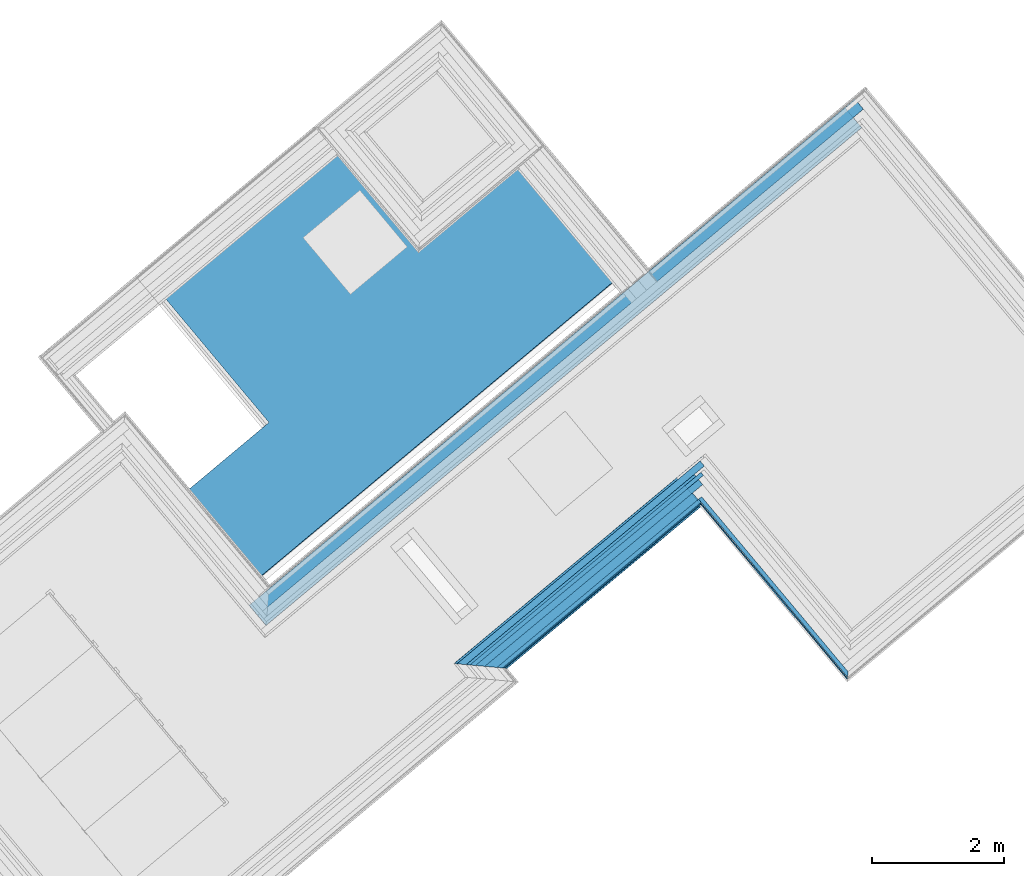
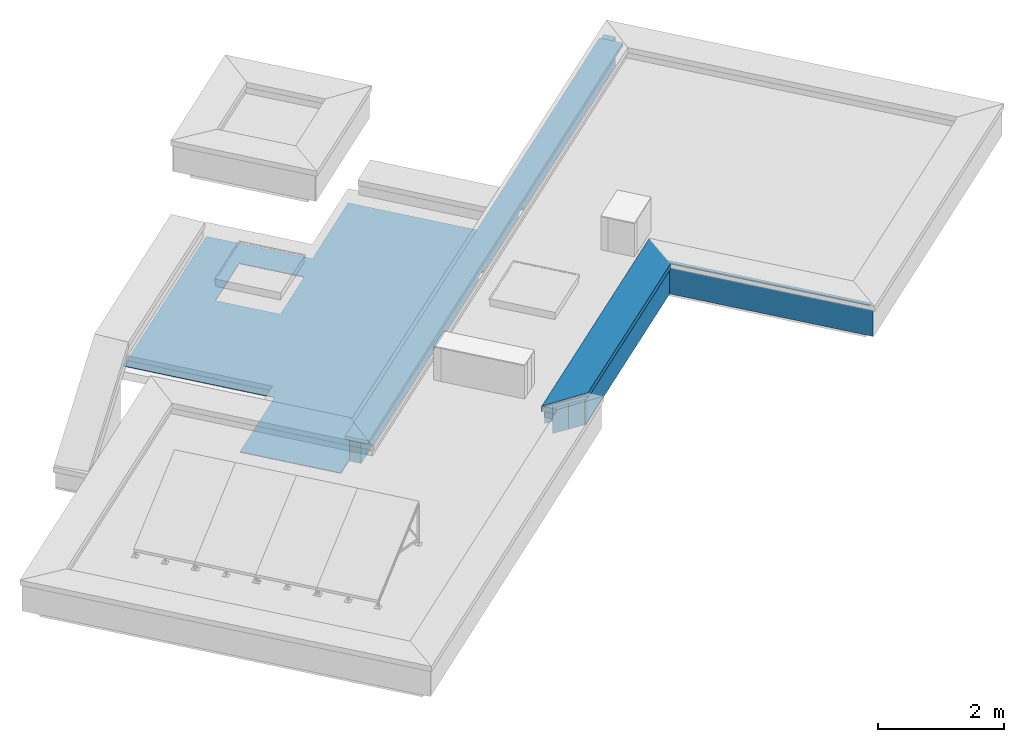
# One storey, part 6 of 15: 14 building element parts, 1 opening, 4 elements without a shape of their own.
"""IFC4 building model written with IfcOpenShell, lengths in metres."""

from ifc_helpers import new_model, entity, si_unit, converted_unit, derived_unit, direction, frame, origin_with_axes, place, context, subcontext, project, spatial, polygons, material, type_object, element, aggregate, save


model = new_model("IFC4")

# Units and contexts
model_context = context("Model", 3, precision=1e-05, world=origin_with_axes(), true_north=direction((0.0, 1.0)))
body_context = subcontext(model_context, "Body", "Model", "MODEL_VIEW")
ifc_project = project(units=[si_unit("LENGTHUNIT", "METRE"), si_unit("AREAUNIT", "SQUARE_METRE"), si_unit("VOLUMEUNIT", "CUBIC_METRE"), converted_unit("PLANEANGLEUNIT", "DEGREE", entity("IfcPlaneAngleMeasure", 0.0174532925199), si_unit("PLANEANGLEUNIT", "RADIAN"), dimensions=[0, 0, 0, 0, 0, 0, 0]), converted_unit("TIMEUNIT", "Year", entity("IfcTimeMeasure", 31556926.0), si_unit("TIMEUNIT", "SECOND"), dimensions=[0, 0, 1, 0, 0, 0, 0]), si_unit("MASSUNIT", "GRAM", prefix="KILO"), si_unit("THERMODYNAMICTEMPERATUREUNIT", "DEGREE_CELSIUS"), si_unit("LUMINOUSINTENSITYUNIT", "LUMEN"), si_unit("ENERGYUNIT", "JOULE", prefix="MEGA"), derived_unit("THERMALCONDUCTANCEUNIT", [(si_unit("POWERUNIT", "WATT"), 1), (si_unit("LENGTHUNIT", "METRE"), -1), (si_unit("THERMODYNAMICTEMPERATUREUNIT", "KELVIN"), -1)]), derived_unit("SPECIFICHEATCAPACITYUNIT", [(si_unit("ENERGYUNIT", "JOULE"), 1), (si_unit("MASSUNIT", "GRAM", prefix="KILO"), -1), (si_unit("THERMODYNAMICTEMPERATUREUNIT", "KELVIN"), -1)]), derived_unit("MASSDENSITYUNIT", [(si_unit("MASSUNIT", "GRAM", prefix="KILO"), 1), (si_unit("VOLUMEUNIT", "CUBIC_METRE"), -1)])], contexts=[model_context])

# Site, building, storey
site_placement = place(None, frame((-0.00153261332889, -0.00661245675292, 0.0), z_axis=(0.0, 0.0, 1.0), x_axis=(1.0, 0.0, 0.0)))
site = spatial("IfcSite", under=ifc_project, at=site_placement, Name="Site", CompositionType="ELEMENT")
building_placement = place(site_placement, origin_with_axes())
building = spatial("IfcBuilding", under=site, at=building_placement, Name="Building", CompositionType="ELEMENT")
storey_placement = place(building_placement, frame((0.0, 0.0, 11.84), z_axis=(0.0, 0.0, 1.0), x_axis=(1.0, 0.0, 0.0)))
storey = spatial("IfcBuildingStorey", under=building, at=storey_placement, Name="DA", CompositionType="ELEMENT", Elevation=11.84)

# Wall, building element parts
wall_type_1 = type_object("IfcWallType", Name="Bauteil - Attika Stehfalz 574 x 670", PredefinedType="NOTDEFINED")
wall_1_placement = place(storey_placement, frame((-0.976428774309, 18.8021580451, 0.0), z_axis=(0.0, 0.0, 1.0), x_axis=(0.767365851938, 0.641209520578, 0.0)))
wall_1 = element("IfcWall", 1, at=wall_1_placement, inside=storey, type_object=wall_type_1, Name="Wand-004", PredefinedType="NOTDEFINED")
ifc_material_1 = material(Name="EPS 1")
building_element_part_1_placement = place(wall_1_placement, origin_with_axes())
building_element_part_1 = element("IfcBuildingElementPart", 2, at=building_element_part_1_placement, material=ifc_material_1, Name="EPS 1", PredefinedType="NOTDEFINED", context=body_context, shape_type="Tessellation", body=[
    polygons([(11.7621019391, 0.19999996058, 0.5), (0.0, 0.19999996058, 0.5), (0.0, -1.2725180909e-09, 0.5), (11.7621019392, -1.27252164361e-09, 0.5), (0.0, 0.19999996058, 0.491006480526), (0.0, 0.19999996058, 0.498822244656), (11.7621019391, 0.19999996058, 0.498822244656), (11.7621019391, 0.19999996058, 0.491006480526), (11.7621019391, 0.19999996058, 0.488695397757), (11.7621019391, 0.19999996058, 0.235000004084), (11.7621019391, 0.19999996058, 0.0), (11.7621019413, 0.19999996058, -0.06), (7.48079768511, 0.19999996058, -0.06), (7.48079768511, 0.19999996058, -0.00130460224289), (7.48079768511, 0.19999996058, 0.00100648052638), (7.48079768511, 0.19999996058, 0.00882224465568), (7.48079768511, 0.19999996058, 0.01), (7.2807976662, 0.19999996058, 0.01), (7.28079766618, 0.19999996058, 0.00882224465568), (7.28079766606, 0.19999996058, 0.00100648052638), (7.28079766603, 0.19999996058, -0.00130460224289), (7.28079766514, 0.19999996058, -0.06), (5.63007431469, 0.19999996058, -0.06), (5.63007431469, 0.19999996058, 0.0), (5.43007429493, 0.19999996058, 0.0), (5.43007429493, 0.19999996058, -0.06), (0.0, 0.19999996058, -0.06), (0.0, 0.19999996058, 0.0), (0.0, 0.19999996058, 0.235000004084), (0.0, 0.19999996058, 0.488695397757), (0.0, -1.2725180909e-09, 0.498822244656), (0.0, -1.2725180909e-09, 0.491006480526), (0.0, -1.2725180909e-09, 0.488695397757), (0.0, -1.2725180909e-09, 0.235000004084), (0.0, -1.27251986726e-09, 0.0), (0.0, -1.27251986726e-09, -0.06), (5.42998538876, -1.2725180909e-09, -0.06), (5.42998538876, -1.2725180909e-09, 0.0), (5.62998540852, -1.2725180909e-09, 0.0), (5.62998540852, -1.2725180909e-09, -0.06), (7.28071069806, -1.27251986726e-09, -0.06), (7.28071069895, -1.27251986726e-09, -0.00130460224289), (7.28071069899, -1.27251986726e-09, 0.00100648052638), (7.2807106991, -1.2725180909e-09, 0.00882224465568), (7.28071069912, -1.2725180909e-09, 0.01), (7.48071071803, -1.2725180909e-09, 0.01), (7.48071071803, -1.2725180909e-09, 0.00882224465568), (7.48071071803, -1.2725180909e-09, 0.00100648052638), (7.48071071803, -1.2725180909e-09, -0.00130460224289), (7.48071071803, -1.27251986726e-09, -0.06), (11.7621019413, -1.2725180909e-09, -0.06), (11.7621019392, -1.27251986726e-09, 0.0), (11.7621019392, -1.27251986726e-09, 0.235000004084), (11.7621019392, -1.27251986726e-09, 0.488695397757), (11.7621019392, -1.27251986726e-09, 0.491006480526), (11.7621019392, -1.27251986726e-09, 0.498822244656)], [[[1, 2, 3, 4]], [[5, 6, 2, 1, 7, 8, 9, 10, 11, 12, 13, 14, 15, 16, 17, 18, 19, 20, 21, 22, 23, 24, 25, 26, 27, 28, 29, 30]], [[6, 31, 3, 2]], [[4, 3, 31, 32, 33, 34, 35, 36, 37, 38, 39, 40, 41, 42, 43, 44, 45, 46, 47, 48, 49, 50, 51, 52, 53, 54, 55, 56]], [[7, 1, 4, 56]], [[32, 31, 6, 5]], [[8, 7, 56, 55]], [[9, 8, 55, 54]], [[10, 9, 54, 53]], [[11, 10, 53, 52]], [[12, 11, 52, 51]], [[51, 50, 13, 12]], [[50, 49, 14, 13]], [[49, 48, 15, 14]], [[48, 47, 16, 15]], [[16, 47, 46, 17]], [[17, 46, 45, 18]], [[18, 45, 44, 19]], [[20, 19, 44, 43]], [[21, 20, 43, 42]], [[22, 21, 42, 41]], [[23, 22, 41, 40]], [[23, 40, 39, 24]], [[24, 39, 38, 25]], [[25, 38, 37, 26]], [[27, 26, 37, 36]], [[36, 35, 28, 27]], [[35, 34, 29, 28]], [[34, 33, 30, 29]], [[33, 32, 5, 30]]], closed=True),
])
ifc_material_2 = material(Name="Brettschichtholz")
building_element_part_2_placement = place(wall_1_placement, origin_with_axes())
building_element_part_2 = element("IfcBuildingElementPart", 3, at=building_element_part_2_placement, material=ifc_material_2, Name="Brettschichtholz", PredefinedType="NOTDEFINED", context=body_context, shape_type="Tessellation", body=[
    polygons([(-0.200000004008, -0.159999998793, 0.560000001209), (-0.200000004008, -0.200000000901, 0.560000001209), (11.5621019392, -0.200000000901, 0.560000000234), (11.5621019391, -0.159999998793, 0.560000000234), (-0.200000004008, -0.200000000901, 0.519224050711), (-0.200000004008, -0.09999999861, 0.560000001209), (-0.200000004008, 0.13012497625, 0.560000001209), (-0.200000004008, 0.190124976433, 0.560000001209), (-0.200000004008, 0.19999996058, 0.560000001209), (-0.200000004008, 0.19999996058, 0.519224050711), (-0.200000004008, -0.200000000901, 0.51136132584), (-0.200000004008, -0.200000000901, 0.509050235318), (-0.200000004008, -0.200000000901, 0.499999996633), (11.5621019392, -0.200000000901, 0.499999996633), (11.5621019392, -0.200000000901, 0.509050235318), (11.5621019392, -0.200000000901, 0.51136132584), (11.5621019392, -0.200000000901, 0.519224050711), (11.5621019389, 0.19999996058, 0.519224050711), (11.5621019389, 0.19999996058, 0.560000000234), (11.5621019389, 0.190124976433, 0.560000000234), (11.562101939, 0.13012497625, 0.560000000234), (11.5621019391, -0.09999999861, 0.560000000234), (11.5621019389, 0.19999996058, 0.51136132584), (11.5621019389, 0.19999996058, 0.509050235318), (11.5621019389, 0.19999996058, 0.499999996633), (-0.200000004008, 0.19999996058, 0.499999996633), (-0.200000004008, 0.19999996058, 0.509050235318), (-0.200000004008, 0.19999996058, 0.51136132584)], [[[1, 2, 3, 4]], [[5, 2, 1, 6, 7, 8, 9, 10]], [[2, 5, 11, 12, 13, 14, 15, 16, 17, 3]], [[4, 3, 17, 18, 19, 20, 21, 22]], [[6, 1, 4, 22]], [[7, 6, 22, 21]], [[8, 7, 21, 20]], [[9, 8, 20, 19]], [[10, 9, 19, 18, 23, 24, 25, 26, 27, 28]], [[5, 10, 28, 11]], [[11, 28, 27, 12]], [[12, 27, 26, 13]], [[13, 26, 25, 14]], [[24, 15, 14, 25]], [[23, 16, 15, 24]], [[18, 17, 16, 23]]], closed=True),
])
aggregate(wall_1, [building_element_part_1, building_element_part_2])

# Roof, opening, building element part
roof_type = type_object("IfcRoofType", Name="Flachdach Kies Dachaufbau Treppenbereich 290", PredefinedType="NOTDEFINED")
roof_placement = place(storey_placement, frame((0.355631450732, 20.6791553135, -0.49), z_axis=(0.0, 0.0, 1.0), x_axis=(0.767529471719, 0.641013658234, 0.0)))
roof = element("IfcRoof", 4, at=roof_placement, inside=storey, type_object=roof_type, Name="Dach-002", PredefinedType="NOTDEFINED")
opening_placement = place(roof_placement, frame((1.78288822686, 2.80364761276, -0.2), z_axis=(0.0, 0.0, 1.0), x_axis=(1.0, 0.0, 0.0)))
element("IfcOpeningElement", 5, at=opening_placement, cuts=roof, Name="DFenst-002", context=body_context, identifier="Reference", shape_type="Tessellation", body=[
    polygons([(0.000113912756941, -0.549086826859, 0.49), (1.09996655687, -0.548858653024, 0.49), (1.09996655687, -0.548858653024, 0.491), (0.000113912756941, -0.549086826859, 0.491), (0.000113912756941, -0.549086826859, 0.199), (1.09996655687, -0.548858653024, 0.199), (1.09973873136, 0.549315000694, 0.49), (1.09973873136, 0.549315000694, 0.491), (-0.000113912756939, 0.549086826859, 0.491), (-0.000113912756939, 0.549086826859, 0.49), (-0.000113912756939, 0.549086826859, 0.199), (1.09973873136, 0.549315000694, 0.199)], [[[1, 2, 3, 4]], [[2, 1, 5, 6]], [[2, 7, 8, 3]], [[8, 9, 4, 3]], [[10, 1, 4, 9]], [[1, 10, 11, 5]], [[6, 5, 11, 12]], [[7, 2, 6, 12]], [[7, 10, 9, 8]], [[10, 7, 12, 11]]], closed=True),
])
ifc_material_3 = material(Name="Folie")
building_element_part_3_placement = place(roof_placement, origin_with_axes())
building_element_part_3 = element("IfcBuildingElementPart", 6, at=building_element_part_3_placement, material=ifc_material_3, Name="Folie", PredefinedType="NOTDEFINED", context=body_context, shape_type="Tessellation", body=[
    polygons([(5.05664972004, -0.162437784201, 0.015), (5.05665223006, -0.168665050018, -3.39504832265e-05), (5.05565338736, 2.30641503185, 0.0), (5.05565338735, 2.30641503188, 0.015), (-2.02563488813, -0.163842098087, 0.015), (-2.02563312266, -0.170055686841, -9.30777352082e-07), (5.03909187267, -0.168668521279, -3.39246458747e-05), (5.04308602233, -0.168667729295, -3.3924641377e-05), (-0.414990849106, 1.54558278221, 0.0), (1.78300213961, 2.2545607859, 0.0), (2.88285478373, 2.25478895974, 0.0), (3.40505867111, 2.30677699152, 0.0), (3.40505867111, 2.30677699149, 0.015), (3.40545349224, 4.10711215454, 0.015), (-0.420373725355, 4.10577441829, 0.015), (-0.419720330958, 1.54558211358, 0.015), (-2.0261205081, 1.54535500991, 0.015), (1.7827743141, 3.35273443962, 0.015), (2.88262695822, 3.35296261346, 0.015), (2.88285478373, 2.25478895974, 0.015), (1.78300213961, 2.2545607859, 0.015), (-2.0261205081, 1.54535500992, 0.0), (-0.415644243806, 4.105776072, 0.0), (3.40545349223, 4.10711215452, 0.0), (2.88262695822, 3.35296261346, 0.0), (1.7827743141, 3.35273443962, 0.0)], [[[1, 2, 3, 4]], [[2, 1, 5, 6, 7, 8]], [[2, 8, 9, 10, 11, 3]], [[3, 12, 13, 4]], [[5, 1, 4, 13, 14, 15, 16, 17], [18, 19, 20, 21]], [[6, 5, 17, 22]], [[7, 6, 22]], [[8, 7, 22, 9]], [[23, 24, 12, 3, 11, 25, 26, 10, 9]], [[21, 20, 11, 10]], [[12, 24, 14, 13]], [[24, 23, 15, 14]], [[23, 9, 16, 15]], [[9, 22, 17, 16]], [[19, 18, 26, 25]], [[20, 19, 25, 11]], [[18, 21, 10, 26]]], closed=True),
])
aggregate(roof, [building_element_part_3])

# Wall, building element parts
wall_type_2 = type_object("IfcWallType", Name="Individuelles Profil 574 x 610", PredefinedType="NOTDEFINED")
wall_2_placement = place(storey_placement, frame((5.6143951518, 20.6557540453, 0.0), z_axis=(0.0, 0.0, 1.0), x_axis=(0.641709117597, -0.766948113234, 0.0)))
wall_2 = element("IfcWall", 7, at=wall_2_placement, inside=storey, type_object=wall_type_2, Name="Wand-004", PredefinedType="NOTDEFINED")
ifc_material_4 = material(Name="Vollholz")
building_element_part_4_placement = place(wall_2_placement, origin_with_axes())
building_element_part_4 = element("IfcBuildingElementPart", 8, at=building_element_part_4_placement, material=ifc_material_4, Name="Vollholz", PredefinedType="NOTDEFINED", context=body_context, shape_type="Tessellation", body=[
    polygons([(0.129855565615, -0.190124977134, 0.560000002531), (0.129940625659, -0.130124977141, 0.560000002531), (3.58755698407, -0.130124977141, 0.560000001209), (3.58755698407, -0.190124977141, 0.560000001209), (0.129855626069, -0.190082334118, 0.567947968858), (0.129940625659, -0.130124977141, 0.567947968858), (0.129940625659, -0.130124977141, 0.573880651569), (0.129940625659, -0.130124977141, 0.575979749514), (0.129940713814, -0.130124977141, 0.584015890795), (3.58755698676, -0.130124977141, 0.584015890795), (3.58755698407, -0.130124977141, 0.575979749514), (3.58755698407, -0.130124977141, 0.573880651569), (3.58755698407, -0.130124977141, 0.567947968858), (3.58755698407, -0.190082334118, 0.567947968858), (3.58755698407, -0.190050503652, 0.573880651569), (3.58755698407, -0.190039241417, 0.575979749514), (3.58755698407, -0.189996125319, 0.584015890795), (3.64741691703, -0.189984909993, 0.586106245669), (0.189715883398, -0.189984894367, 0.586106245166), (0.129855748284, -0.189996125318, 0.584015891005), (0.12985568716, -0.190039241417, 0.575979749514), (0.129855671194, -0.190050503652, 0.573880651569)], [[[1, 2, 3, 4]], [[1, 5, 6, 2]], [[2, 6, 7, 8, 9, 10, 11, 12, 13, 3]], [[14, 4, 3, 13]], [[5, 1, 4, 14, 15, 16, 17, 18, 19, 20, 21, 22]], [[5, 22, 7, 6]], [[22, 21, 8, 7]], [[21, 20, 9, 8]], [[19, 18, 10, 9]], [[17, 16, 11, 10]], [[16, 15, 12, 11]], [[15, 14, 13, 12]], [[18, 17, 10]], [[20, 19, 9]]], closed=True),
])
ifc_material_5 = material(Name="Zementputz")
building_element_part_5_placement = place(wall_2_placement, origin_with_axes())
building_element_part_5 = element("IfcBuildingElementPart", 9, at=building_element_part_5_placement, material=ifc_material_5, Name="Zementputz", PredefinedType="NOTDEFINED", context=body_context, shape_type="Tessellation", body=[
    polygons([(0.199716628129, -0.199999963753, 0.498822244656), (0.199716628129, -0.199999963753, 0.5), (3.65743197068, -0.199999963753, 0.5), (3.65743197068, -0.199999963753, 0.498822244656), (3.65743197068, -0.199999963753, 0.491006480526), (3.65743197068, -0.199999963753, 0.488695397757), (3.65743197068, -0.199999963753, 0.235000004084), (3.65743197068, -0.199999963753, 0.0), (0.199716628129, -0.199999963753, 0.0), (0.199716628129, -0.199999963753, 0.235000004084), (0.199716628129, -0.199999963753, 0.488695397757), (0.199716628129, -0.199999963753, 0.491006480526), (0.199695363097, -0.214999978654, 0.5), (0.199695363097, -0.214999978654, 0.498822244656), (3.65743197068, -0.214999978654, 0.5), (3.65743197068, -0.214999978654, 0.498822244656), (3.65743197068, -0.214999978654, 0.491006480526), (3.65743197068, -0.214999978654, 0.488695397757), (3.65743197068, -0.214999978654, 0.235000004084), (3.65743197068, -0.214999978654, 0.0), (0.199695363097, -0.214999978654, 0.0), (0.199695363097, -0.214999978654, 0.235000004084), (0.199695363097, -0.214999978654, 0.488695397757), (0.199695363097, -0.214999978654, 0.491006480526)], [[[1, 2, 3, 4, 5, 6, 7, 8, 9, 10, 11, 12]], [[13, 2, 1, 14]], [[2, 13, 15, 3]], [[16, 4, 3, 15]], [[5, 4, 16, 17]], [[6, 5, 17, 18]], [[18, 19, 7, 6]], [[19, 20, 8, 7]], [[21, 9, 8, 20]], [[22, 10, 9, 21]], [[10, 22, 23, 11]], [[11, 23, 24, 12]], [[14, 1, 12, 24]], [[13, 14, 24, 23, 22, 21, 20, 19, 18, 17, 16, 15]]], closed=True),
])
aggregate(wall_2, [building_element_part_4, building_element_part_5])

wall_3_placement = place(storey_placement, frame((2.3134110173, 17.9017514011, 0.0), z_axis=(0.0, 0.0, 1.0), x_axis=(0.76785707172, 0.640621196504, 0.0)))
wall_3 = element("IfcWall", 10, at=wall_3_placement, inside=storey, type_object=wall_type_2, Name="Wand-004", PredefinedType="NOTDEFINED")
ifc_material_6 = material(Name="Stahl")
building_element_part_6_placement = place(wall_3_placement, origin_with_axes())
building_element_part_6 = element("IfcBuildingElementPart", 11, at=building_element_part_6_placement, material=ifc_material_6, Name="Stahl", PredefinedType="NOTDEFINED", context=body_context, shape_type="Tessellation", body=[
    polygons([(0.241500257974, -0.241500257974, 0.510007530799), (4.05779835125, -0.241500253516, 0.510007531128), (4.05779835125, -0.241500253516, 0.511361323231), (4.05779835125, -0.241500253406, 0.519224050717), (4.05779835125, -0.241500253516, 0.559999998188), (4.05779835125, -0.241500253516, 0.567947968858), (4.05779835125, -0.241500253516, 0.573880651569), (4.05779835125, -0.241500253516, 0.575979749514), (4.05779835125, -0.241500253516, 0.584015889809), (4.05779835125, -0.241500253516, 0.586106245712), (4.05779835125, -0.241500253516, 0.587937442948), (4.05779835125, -0.241500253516, 0.608570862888), (4.05779835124, -0.241500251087, 0.608602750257), (4.05779834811, -0.241500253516, 0.610006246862), (0.241500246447, -0.241500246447, 0.610006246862), (0.240542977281, -0.240542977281, 0.509050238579), (4.05875428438, -0.240542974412, 0.509050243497), (4.05779563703, -0.239585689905, 0.510007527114), (4.05779371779, -0.238231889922, 0.511361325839), (4.057796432, -0.240146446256, 0.511361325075), (4.05779643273, -0.240146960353, 0.519224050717), (4.0577964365, -0.240149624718, 0.559999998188), (4.05779643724, -0.240150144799, 0.567947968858), (4.05779643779, -0.240150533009, 0.573880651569), (4.05779643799, -0.240150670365, 0.575979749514), (4.05779643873, -0.240151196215, 0.584015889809), (4.05779643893, -0.240151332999, 0.586106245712), (4.0577964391, -0.240151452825, 0.587937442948), (4.05779644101, -0.240152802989, 0.608570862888), (4.05779644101, -0.240152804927, 0.608602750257), (4.05774338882, -0.202730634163, 0.608602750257), (-0.332051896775, 0.332051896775, 0.589243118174), (4.05909083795, -0.202730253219, 0.608602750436), (4.05996589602, -0.201849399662, 0.608570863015), (4.59311659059, 0.332051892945, 0.589243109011), (-0.332051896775, 0.332051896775, 0.489652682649), (-0.331094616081, 0.331094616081, 0.488695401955), (-0.321878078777, 0.321878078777, 0.497911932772), (-0.32288233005, 0.32288233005, 0.498822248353), (-0.330698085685, 0.330698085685, 0.491006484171), (-0.330698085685, 0.330698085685, 0.587937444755), (0.239276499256, -0.239276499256, 0.608570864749), (0.240152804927, -0.240152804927, 0.608602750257), (0.240146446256, -0.240146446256, 0.51136132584), (0.232283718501, -0.232283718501, 0.519224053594), (0.231373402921, -0.231373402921, 0.518219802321), (4.06599629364, -0.23137340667, 0.518219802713), (4.05914752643, -0.238231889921, 0.51136132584), (4.05915024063, -0.24014644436, 0.511361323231), (4.05914389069, -0.240152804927, 0.608602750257), (4.0600189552, -0.239276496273, 0.608570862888), (4.62918607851, 0.330698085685, 0.587937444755), (4.62918415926, 0.332051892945, 0.587937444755), (4.62918415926, 0.332051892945, 0.586106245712), (4.62918415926, 0.332051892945, 0.584015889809), (4.62918415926, 0.332051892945, 0.575979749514), (4.62918415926, 0.332051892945, 0.573880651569), (4.62918415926, 0.332051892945, 0.567947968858), (4.62918415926, 0.332051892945, 0.560000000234), (4.62918415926, 0.332051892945, 0.519224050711), (4.62918415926, 0.332051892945, 0.51136132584), (4.62918415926, 0.332051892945, 0.509050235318), (4.62918415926, 0.332051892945, 0.499999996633), (4.62918415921, 0.332051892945, 0.498822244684), (4.62918415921, 0.332051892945, 0.491006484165), (4.62726960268, 0.332051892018, 0.491006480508), (4.62862340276, 0.332051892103, 0.489652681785), (4.62958204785, 0.331094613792, 0.488695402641), (4.62727423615, 0.328783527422, 0.491006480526), (4.62037856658, 0.32187807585, 0.497911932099), (4.62138139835, 0.322882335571, 0.498822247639), (4.62037585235, 0.323792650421, 0.497911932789), (4.62727152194, 0.33069808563, 0.491006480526), (4.62918607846, 0.330698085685, 0.491006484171), (4.62918607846, 0.330698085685, 0.498822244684), (4.62918607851, 0.330698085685, 0.499999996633), (4.62918607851, 0.330698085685, 0.509050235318), (4.62918607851, 0.330698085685, 0.51136132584), (4.62918607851, 0.330698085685, 0.519224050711), (4.62918607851, 0.330698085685, 0.560000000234), (4.62918607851, 0.330698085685, 0.567947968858), (4.62918607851, 0.330698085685, 0.573880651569), (4.62918607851, 0.330698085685, 0.575979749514), (4.62918607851, 0.330698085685, 0.584015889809), (4.62918607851, 0.330698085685, 0.586106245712), (4.06700183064, -0.23228372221, 0.519224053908)], [[[1, 2, 3, 4, 5, 6, 7, 8, 9, 10, 11, 12, 13, 14, 15]], [[1, 16, 17, 2]], [[18, 19, 20, 3, 2]], [[20, 21, 4, 3]], [[21, 22, 5, 4]], [[5, 22, 23, 6]], [[7, 6, 23, 24]], [[8, 7, 24, 25]], [[9, 8, 25, 26]], [[10, 9, 26, 27]], [[11, 10, 27, 28]], [[12, 11, 28, 29]], [[30, 13, 12, 29]], [[30, 31, 14, 13]], [[32, 15, 14, 31, 33, 34, 35]], [[16, 1, 15, 32, 36, 37, 38, 39, 40, 41, 42, 43, 44, 45, 46]], [[16, 46, 47, 48, 19, 18, 17]], [[18, 2, 17]], [[20, 19, 48, 49]], [[44, 43, 30, 29, 28, 27, 26, 25, 24, 23, 22, 21, 20]], [[33, 31, 30, 50]], [[34, 33, 50, 51]], [[34, 51, 52, 53, 35]], [[36, 32, 35, 53, 54, 55, 56, 57, 58, 59, 60, 61, 62, 63, 64, 65, 66, 67]], [[37, 36, 67, 68]], [[38, 37, 68, 69, 70]], [[39, 38, 70, 71]], [[40, 39, 71, 72, 73]], [[41, 40, 73, 74, 75, 76, 77, 78, 79, 80, 81, 82, 83, 84, 85, 52]], [[42, 41, 52, 51]], [[43, 42, 51, 50, 30]], [[45, 44, 20, 49, 86]], [[46, 45, 86, 47]], [[48, 47, 86, 49]], [[52, 85, 54, 53]], [[84, 55, 54, 85]], [[83, 56, 55, 84]], [[57, 56, 83, 82]], [[58, 57, 82, 81]], [[59, 58, 81, 80]], [[60, 59, 80, 79]], [[61, 60, 79, 78]], [[62, 61, 78, 77]], [[63, 62, 77, 76]], [[64, 63, 76, 75]], [[65, 64, 75, 74]], [[73, 66, 65, 74]], [[66, 73, 69, 68, 67]], [[72, 70, 69, 73]], [[70, 72, 71]]], closed=True),
])
ifc_material_7 = material(Name="Holzwerkstoff")
building_element_part_7_placement = place(wall_3_placement, origin_with_axes())
building_element_part_7 = element("IfcBuildingElementPart", 12, at=building_element_part_7_placement, material=ifc_material_7, Name="Holzwerkstoff", PredefinedType="NOTDEFINED", context=body_context, shape_type="Tessellation", body=[
    polygons([(-0.329999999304, 0.329999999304, 0.567947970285), (-0.330698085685, 0.330698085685, 0.587937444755), (4.05849038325, 0.330698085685, 0.587937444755), (4.05848743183, 0.330695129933, 0.587852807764), (4.10850253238, 0.330634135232, 0.586106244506), (4.16836274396, 0.330561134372, 0.584015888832), (4.3984883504, 0.330280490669, 0.575979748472), (4.45859874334, 0.330207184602, 0.573880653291), (4.62848894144, 0.329999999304, 0.567947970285), (0.189984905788, -0.189984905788, 0.586106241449), (0.239999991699, -0.239999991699, 0.587852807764), (0.239276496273, -0.239276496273, 0.608570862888), (-0.160110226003, 0.160110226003, 0.573880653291), (-0.0999999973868, 0.0999999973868, 0.575979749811), (0.130124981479, -0.130124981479, 0.584015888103), (4.06001895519, -0.239276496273, 0.608570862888), (4.05929943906, -0.239997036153, 0.587937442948), (4.0592964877, -0.239999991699, 0.587852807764), (4.10924068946, -0.189984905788, 0.586106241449), (4.16901592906, -0.130124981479, 0.584015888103), (4.39881479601, 0.0999999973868, 0.575979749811), (4.45883988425, 0.160110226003, 0.573880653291)], [[[1, 2, 3, 4, 5, 6, 7, 8, 9]], [[10, 11, 12, 2, 1, 13, 14, 15]], [[2, 12, 16, 3]], [[17, 18, 4, 3]], [[4, 18, 19, 5]], [[6, 5, 19, 20]], [[7, 6, 20, 21]], [[8, 7, 21, 22]], [[22, 9, 8]], [[13, 1, 9, 22]], [[11, 10, 19, 18]], [[12, 11, 18, 17, 16]], [[14, 13, 22, 21]], [[15, 14, 21, 20]], [[10, 15, 20, 19]], [[16, 17, 3]]], closed=True),
])
building_element_part_8_placement = place(wall_3_placement, origin_with_axes())
building_element_part_8 = element("IfcBuildingElementPart", 13, at=building_element_part_8_placement, material=ifc_material_1, Name="EPS 1", PredefinedType="NOTDEFINED", context=body_context, shape_type="Tessellation", body=[
    polygons([(-0.300000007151, 0.300000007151, 0.488695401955), (-0.30000000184, 0.30000000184, 0.560000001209), (4.49853138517, 0.30000000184, 0.560000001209), (4.49853138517, 0.300000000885, 0.519224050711), (4.49853138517, 0.300000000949, 0.51136132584), (4.49853138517, 0.300000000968, 0.509050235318), (4.49853138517, 0.300000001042, 0.499999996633), (4.49853138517, 0.300000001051, 0.498822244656), (4.49853138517, 0.300000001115, 0.491006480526), (4.49853138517, 0.300000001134, 0.488695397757), (4.49853138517, 0.300000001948, 0.23500000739), (-0.300000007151, 0.300000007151, 0.23500000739), (-0.200000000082, 0.200000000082, 0.23500000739), (-0.200000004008, 0.200000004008, 0.560000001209), (4.49867315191, 0.200000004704, 0.560000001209), (4.49867315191, 0.200000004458, 0.519224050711), (4.49867315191, 0.200000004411, 0.51136132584), (4.49867315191, 0.200000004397, 0.509050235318), (4.49867315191, 0.200000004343, 0.499999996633), (4.49867315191, 0.200000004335, 0.498822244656), (4.49867315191, 0.200000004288, 0.491006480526), (4.49867315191, 0.200000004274, 0.488695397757), (4.49867315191, 0.200000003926, 0.23500000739)], [[[1, 2, 3, 4, 5, 6, 7, 8, 9, 10, 11, 12]], [[13, 14, 2, 1, 12]], [[2, 14, 15, 3]], [[15, 16, 4, 3]], [[16, 17, 5, 4]], [[17, 18, 6, 5]], [[18, 19, 7, 6]], [[19, 20, 8, 7]], [[20, 21, 9, 8]], [[21, 22, 10, 9]], [[23, 11, 10, 22]], [[13, 12, 11, 23]], [[14, 13, 23, 22, 21, 20, 19, 18, 17, 16, 15]]], closed=True),
])
building_element_part_9_placement = place(wall_3_placement, origin_with_axes())
building_element_part_9 = element("IfcBuildingElementPart", 14, at=building_element_part_9_placement, material=ifc_material_4, Name="Vollholz", PredefinedType="NOTDEFINED", context=body_context, shape_type="Tessellation", body=[
    polygons([(4.39881481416, 0.1, 0.573880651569), (4.39881481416, 0.100000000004, 0.575979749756), (-0.1, 0.1, 0.575979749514), (-0.1, 0.1, 0.560000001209), (4.39881481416, 0.1, 0.560000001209), (4.39881481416, 0.1, 0.567947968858), (4.39872959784, 0.160110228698, 0.573880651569), (-0.160110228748, 0.160110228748, 0.573880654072), (-0.16, 0.16, 0.560000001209), (4.39872975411, 0.16, 0.560000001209), (4.39872966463, 0.160063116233, 0.567947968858)], [[[1, 2, 3, 4, 5, 6]], [[7, 2, 1]], [[2, 7, 8, 3]], [[9, 4, 3, 8]], [[10, 5, 4, 9]], [[11, 6, 5, 10]], [[7, 1, 6, 11]], [[7, 11, 10, 9, 8]]], closed=True),
])
ifc_material_8 = material(Name="Stahlbeton Wand Garage")
building_element_part_10_placement = place(wall_3_placement, origin_with_axes())
building_element_part_10 = element("IfcBuildingElementPart", 15, at=building_element_part_10_placement, material=ifc_material_8, Name="Stahlbeton Wand Garage", PredefinedType="NOTDEFINED", context=body_context, shape_type="Tessellation", body=[
    polygons([(-0.200000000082, 0.200000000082, 0.0), (-0.200000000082, 0.200000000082, 0.23500000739), (4.29867294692, 0.200000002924, 0.235000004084), (4.29867294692, 0.20000000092, 0.0), (0.0, 0.0, 0.0), (0.0, 0.0, 0.5), (-0.2, 0.2, 0.5), (4.29867294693, 0.2, 0.5), (4.29867294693, 0.200000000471, 0.498822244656), (4.29867294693, 0.200000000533, 0.491006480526), (4.29867294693, 0.200000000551, 0.488695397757), (4.2989564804, 4.3705590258e-09, 0.235000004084), (4.2989564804, 4.43951542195e-09, 0.0), (4.2989564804, 4.29611368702e-09, 0.488695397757), (4.2989564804, 4.29543689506e-09, 0.491006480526), (4.2989564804, 4.29314184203e-09, 0.498822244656), (4.29895648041, 0.0, 0.5)], [[[1, 2, 3, 4]], [[5, 6, 7, 2, 1]], [[2, 7, 8, 9, 10, 11, 3]], [[12, 13, 4, 3]], [[5, 1, 4, 13]], [[6, 5, 13, 12, 14, 15, 16, 17]], [[7, 6, 17, 8]], [[8, 17, 16, 9]], [[10, 9, 16, 15]], [[15, 14, 11, 10]], [[14, 12, 3, 11]]], closed=True),
])
building_element_part_11_placement = place(wall_3_placement, origin_with_axes())
building_element_part_11 = element("IfcBuildingElementPart", 16, at=building_element_part_11_placement, material=ifc_material_2, Name="Brettschichtholz", PredefinedType="NOTDEFINED", context=body_context, shape_type="Tessellation", body=[
    polygons([(4.084261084, -0.214999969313, 0.519224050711), (4.08426108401, -0.214999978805, 0.55999999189), (0.214999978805, -0.214999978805, 0.55999999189), (0.214999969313, -0.214999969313, 0.50000001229), (4.08426108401, -0.214999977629, 0.499999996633), (4.084261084, -0.214999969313, 0.509050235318), (4.084261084, -0.214999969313, 0.51136132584), (4.08422581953, -0.190124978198, 0.55999999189), (4.08367275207, 0.200000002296, 0.519224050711), (4.08367275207, 0.200000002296, 0.55999999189), (4.08372945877, 0.159999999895, 0.55999999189), (4.08381451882, 0.0999999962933, 0.55999999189), (4.08414075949, -0.130124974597, 0.55999999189), (0.190124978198, -0.190124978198, 0.560000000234), (0.130124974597, -0.130124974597, 0.560000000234), (-0.0999999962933, 0.0999999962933, 0.560000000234), (-0.159999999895, 0.159999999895, 0.560000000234), (-0.200000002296, 0.200000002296, 0.560000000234), (-0.200000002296, 0.200000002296, 0.499999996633), (4.08367275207, 0.200000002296, 0.499999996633), (4.08367275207, 0.200000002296, 0.509050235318), (4.08367275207, 0.200000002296, 0.51136132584)], [[[1, 2, 3, 4, 5, 6, 7]], [[8, 2, 1, 9, 10, 11, 12, 13]], [[2, 8, 14, 3]], [[4, 3, 14, 15, 16, 17, 18, 19]], [[20, 5, 4, 19]], [[21, 6, 5, 20]], [[22, 7, 6, 21]], [[9, 1, 7, 22]], [[10, 9, 22, 21, 20, 19, 18]], [[11, 10, 18, 17]], [[12, 11, 17, 16]], [[13, 12, 16, 15]], [[8, 13, 15, 14]]], closed=True),
])
building_element_part_12_placement = place(wall_3_placement, origin_with_axes())
building_element_part_12 = element("IfcBuildingElementPart", 17, at=building_element_part_12_placement, material=ifc_material_1, Name="EPS 1", PredefinedType="NOTDEFINED", context=body_context, shape_type="Tessellation", body=[
    polygons([(4.09923985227, -0.19999996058, 0.235000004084), (4.09923985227, -0.19999996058, 0.0), (4.09895631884, 2.16659401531e-09, 0.0), (4.09895631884, 2.16659401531e-09, 0.235000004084), (0.19999996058, -0.19999996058, 0.5), (0.19999996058, -0.19999996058, 0.0), (4.09923985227, -0.19999996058, 0.488695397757), (4.09923985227, -0.19999996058, 0.491006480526), (4.09923985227, -0.19999996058, 0.498822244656), (4.09923985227, -0.19999996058, 0.5), (-2.16658868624e-09, 2.16659223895e-09, 0.0), (-2.16659223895e-09, 2.16659401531e-09, 0.5), (4.09895631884, 2.16659223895e-09, 0.5), (4.09895631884, 2.16659046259e-09, 0.498822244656), (4.09895631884, 2.16659046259e-09, 0.491006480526), (4.09895631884, 2.16659401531e-09, 0.488695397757)], [[[1, 2, 3, 4]], [[5, 6, 2, 1, 7, 8, 9, 10]], [[6, 11, 3, 2]], [[11, 12, 13, 14, 15, 16, 4, 3]], [[7, 1, 4, 16]], [[6, 5, 12, 11]], [[8, 7, 16, 15]], [[9, 8, 15, 14]], [[13, 10, 9, 14]], [[12, 5, 10, 13]]], closed=True),
])
building_element_part_13_placement = place(wall_3_placement, origin_with_axes())
building_element_part_13 = element("IfcBuildingElementPart", 18, at=building_element_part_13_placement, material=ifc_material_4, Name="Vollholz", PredefinedType="NOTDEFINED", context=body_context, shape_type="Tessellation", body=[
    polygons([(4.10922951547, -0.189996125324, 0.584015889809), (4.10924071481, -0.189984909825, 0.586106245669), (0.189984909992, -0.189984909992, 0.586106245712), (0.190124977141, -0.190124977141, 0.560000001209), (4.10910084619, -0.190124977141, 0.560000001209), (4.1091434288, -0.190082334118, 0.567947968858), (4.10917521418, -0.190050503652, 0.573880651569), (4.10918646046, -0.190039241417, 0.575979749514), (4.1091446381, -0.130124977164, 0.584015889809), (0.130124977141, -0.130124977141, 0.584015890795), (0.130124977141, -0.130124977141, 0.560000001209), (4.10901578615, -0.130124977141, 0.560000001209), (4.10905842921, -0.130124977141, 0.567947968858), (4.10909025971, -0.130124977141, 0.573880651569), (4.10910152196, -0.130124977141, 0.575979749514)], [[[1, 2, 3, 4, 5, 6, 7, 8]], [[9, 2, 1]], [[2, 9, 10, 3]], [[10, 11, 4, 3]], [[12, 5, 4, 11]], [[13, 6, 5, 12]], [[14, 7, 6, 13]], [[15, 8, 7, 14]], [[9, 1, 8, 15]], [[9, 15, 14, 13, 12, 11, 10]]], closed=True),
])
building_element_part_14_placement = place(wall_3_placement, origin_with_axes())
building_element_part_14 = element("IfcBuildingElementPart", 19, at=building_element_part_14_placement, material=ifc_material_5, Name="Zementputz", PredefinedType="NOTDEFINED", context=body_context, shape_type="Tessellation", body=[
    polygons([(4.08426108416, -0.214999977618, 0.235000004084), (4.08426108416, -0.214999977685, 0.0), (4.08423981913, -0.199999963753, 0.0), (4.08423981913, -0.199999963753, 0.235000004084), (0.214999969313, -0.214999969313, 0.50000001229), (0.214999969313, -0.214999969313, 0.0), (4.08426108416, -0.214999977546, 0.488695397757), (4.08426108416, -0.214999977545, 0.491006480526), (4.08426108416, -0.214999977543, 0.498822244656), (4.08426108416, -0.214999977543, 0.5), (0.199999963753, -0.199999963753, 0.0), (0.199999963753, -0.199999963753, 0.5), (4.08423981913, -0.199999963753, 0.5), (4.08423981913, -0.199999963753, 0.498822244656), (4.08423981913, -0.199999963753, 0.491006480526), (4.08423981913, -0.199999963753, 0.488695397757)], [[[1, 2, 3, 4]], [[5, 6, 2, 1, 7, 8, 9, 10]], [[6, 11, 3, 2]], [[11, 12, 13, 14, 15, 16, 4, 3]], [[7, 1, 4, 16]], [[6, 5, 12, 11]], [[8, 7, 16, 15]], [[9, 8, 15, 14]], [[13, 10, 9, 14]], [[12, 5, 10, 13]]], closed=True),
])
aggregate(wall_3, [building_element_part_6, building_element_part_7, building_element_part_8, building_element_part_9, building_element_part_10, building_element_part_11, building_element_part_12, building_element_part_13, building_element_part_14])

save(model, "model.ifc")
